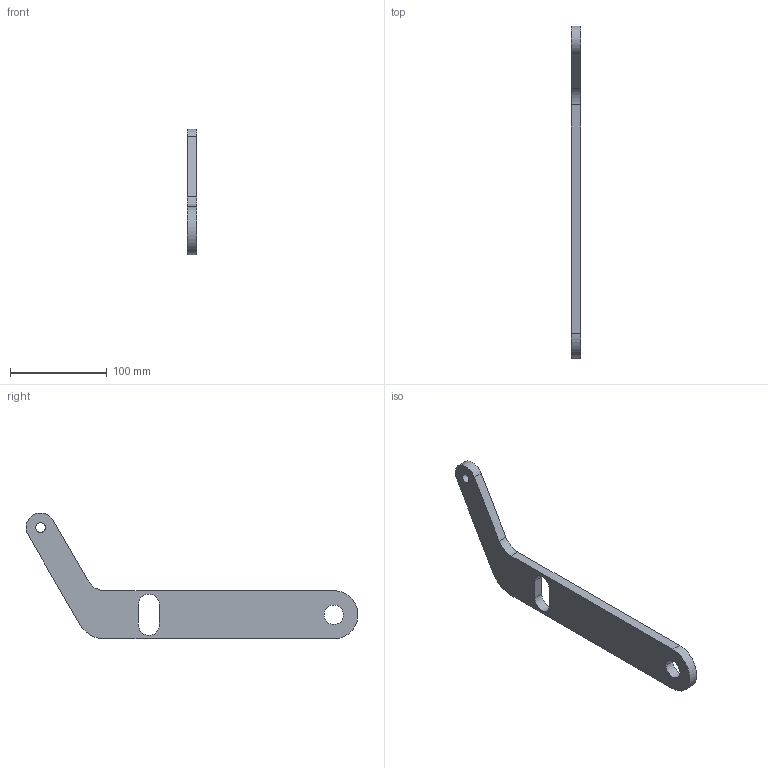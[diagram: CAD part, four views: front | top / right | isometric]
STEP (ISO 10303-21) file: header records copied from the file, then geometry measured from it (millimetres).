
FILE_DESCRIPTION(('CATIA V5 STEP Exchange'),'2;1');
FILE_NAME('C:\Users\gener\Documents\Lijadora Javitxu corte laser\Barra tensora.stp','2022-08-29T05:34:48+00:00',('none'),('none'),'CATIA Version 5 Release 20 GA (IN-10)','CATIA V5 STEP AP203','none');
FILE_SCHEMA(('CONFIG_CONTROL_DESIGN'));
Length unit declared in the file: millimetre
Products named in the file (1): Barra tensora
Bounding box: 10 x 343.47 x 130.3 mm (x, y, z)
Volume: 157849.6 mm3; surface area: 41933.4 mm2
Topology: 1 solids, 1 shells, 18 faces, 50 edges, 35 vertices
Faces by surface type: cylinder 10, plane 8
Entity records: 616 total; most frequent: CARTESIAN_POINT 103, ORIENTED_EDGE 96, DIRECTION 82, EDGE_CURVE 48, AXIS2_PLACEMENT_3D 39, VERTEX_POINT 32, VECTOR 28, LINE 28
